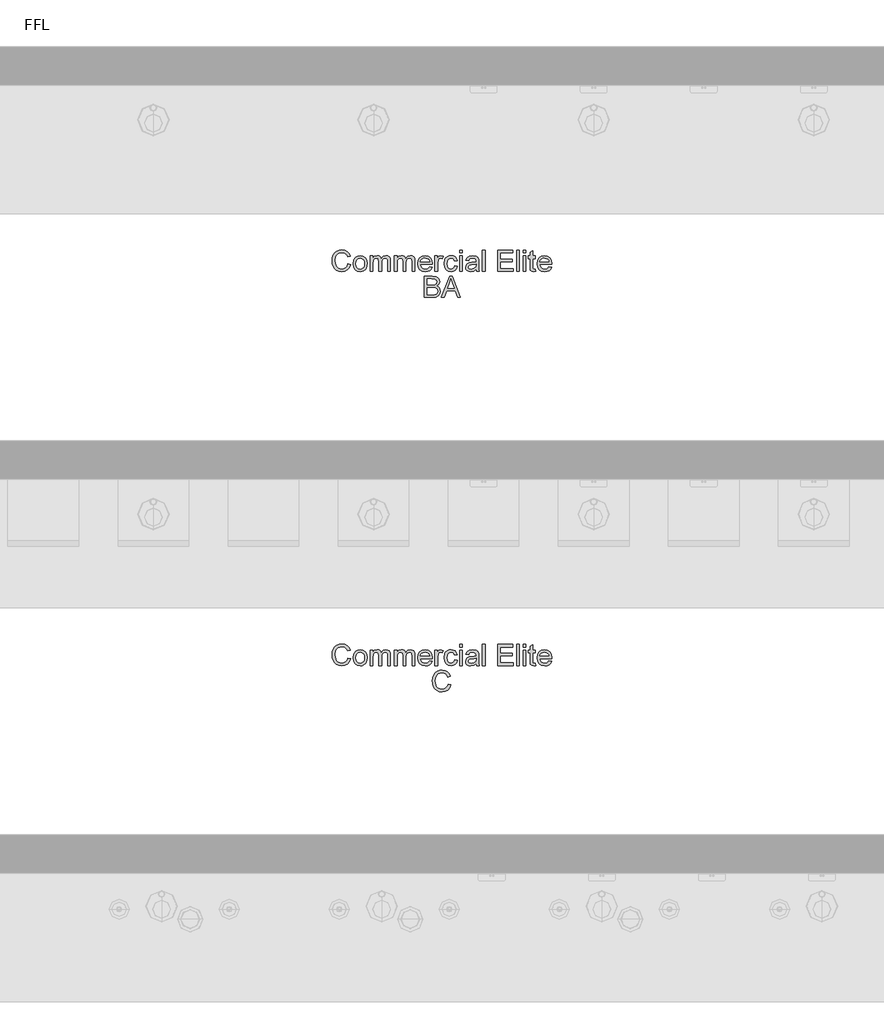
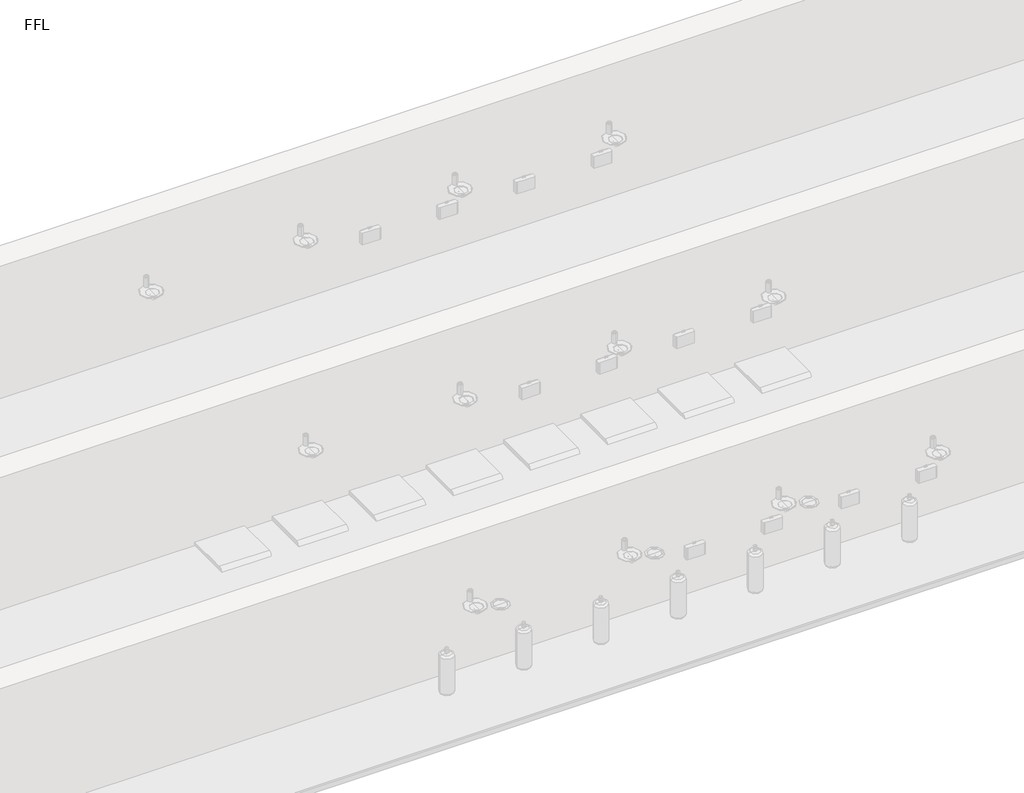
# One storey, part 11 of 13: 2 proxies.
"""IFC4 building model written with IfcOpenShell, lengths in millimetres."""

from ifc_helpers import new_model, si_unit, origin, origin_with_axes, place, context, project, spatial, polyline, outline, extrude, element, save

model = new_model("IFC4")

# Units and contexts
model_context = context("Model", 3, world=origin())
ifc_project = project(units=[si_unit("LENGTHUNIT", "METRE", prefix="MILLI")], contexts=[model_context])

# Site, building, storey
site = spatial("IfcSite", under=ifc_project)
building = spatial("IfcBuilding", under=site)
storey = spatial("IfcBuildingStorey", under=building, Name="FFL", Elevation=0.0)

# Proxies
placement = place(None, origin())
element("IfcBuildingElementProxy", 1, Name="150mm Arial", ObjectType="150mm Arial", at=placement, inside=storey, context=model_context, shape_type="SweptSolid", body=[
    extrude(outline(polyline([(6283.6300917, 6596.3018309), (6302.0916302, 6591.5422155), (6293.5730004, 6570.0292948), (6280.204611, 6554.3126482), (6262.6445148, 6544.698766), (6241.5507648, 6541.4941386), (6220.1370028, 6543.9190184), (6203.1312937, 6551.1936578), (6190.0964379, 6563.065653), (6180.595236, 6579.2826001), (6174.7944547, 6598.3481049), (6172.860861, 6618.7657732), (6175.0468586, 6640.3012299), (6181.6048514, 6658.8979847), (6192.1922913, 6673.9655929), (6206.4666302, 6684.9136097), (6223.3957167, 6691.5797756), (6241.9473994, 6693.8018309), (6262.1892865, 6690.9262299), (6278.9245629, 6682.299427), (6291.6303922, 6668.4532732), (6299.7839379, 6649.9196193), (6281.3223994, 6645.5205809), (6274.9221591, 6658.9836217), (6266.1781687, 6668.2188982), (6254.9822552, 6673.5599439), (6241.2262456, 6675.3402924), (6225.3698754, 6673.3661338), (6212.3440341, 6667.4436578), (6202.4597191, 6658.1948597), (6196.0279283, 6646.2417347), (6191.3223994, 6618.8018309), (6196.8933129, 6586.9989463), (6204.0147071, 6575.1224439), (6214.2370629, 6566.6804367), (6226.4921711, 6561.6368669), (6239.7118225, 6559.955677), (6255.1219788, 6562.2453405), (6267.9630244, 6569.1143309), (6277.6580365, 6580.4905328), (6283.6300917, 6596.3018309)])), origin_with_axes(), (0.0, 0.0, 1.0), 5.0),
    extrude(outline(polyline([(6320.5531687, 6598.0326001), (6324.5465581, 6624.1834415), (6336.5267264, 6642.5638501), (6351.3284091, 6651.5692588), (6369.0507648, 6654.5710617), (6388.4452961, 6650.9157131), (6403.9365821, 6639.9496674), (6414.0913297, 6622.5383092), (6417.4762456, 6599.5470232), (6415.9798514, 6580.8961818), (6411.4906687, 6566.6984655), (6404.1394066, 6556.0659535), (6394.0567744, 6548.1107251), (6382.0811134, 6543.1482852), (6369.0507648, 6541.4941386), (6349.4218586, 6545.1359655), (6333.9486014, 6556.0614463), (6323.9020268, 6573.8378886), (6320.5531687, 6598.0326001)]), holes=[polyline([(6339.0147071, 6598.0686578), (6341.1511254, 6581.3604246), (6347.5603802, 6569.456879), (6357.2058129, 6562.3309775), (6369.0507648, 6559.955677), (6380.8416302, 6562.3444992), (6390.4690341, 6569.5109655), (6396.8782889, 6581.5722636), (6399.0147071, 6598.6455809), (6396.8647672, 6614.8670352), (6390.4149475, 6626.6083213), (6380.774022, 6633.7342227), (6369.0507648, 6636.1095232), (6357.2058129, 6633.7432371), (6347.5603802, 6626.644379), (6341.1511254, 6614.7678766), (6339.0147071, 6598.0686578)])]), origin_with_axes(), (0.0, 0.0, 1.0), 5.0),
    extrude(outline(polyline([(6438.2454764, 6543.8018309), (6438.2454764, 6652.2633693), (6456.7070148, 6652.2633693), (6456.7070148, 6634.4148117), (6469.3993225, 6649.0362059), (6487.4642264, 6654.5710617), (6497.7316542, 6653.1603044), (6505.9618225, 6648.9280328), (6516.1300917, 6633.1167347), (6530.5351398, 6649.2074799), (6548.7262456, 6654.5710617), (6562.6039499, 6652.3399919), (6572.8668706, 6645.6467828), (6579.2085172, 6634.3111458), (6581.3223994, 6618.1527924), (6581.3223994, 6543.8018309), (6562.860861, 6543.8018309), (6562.860861, 6610.2201001), (6561.1481206, 6625.6347636), (6554.9461975, 6633.2249078), (6544.3993225, 6636.1095232), (6534.3978201, 6634.2615665), (6526.2442744, 6628.7176963), (6520.822099, 6619.0993068), (6519.0147071, 6605.0277924), (6519.0147071, 6543.8018309), (6500.5531687, 6543.8018309), (6500.5531687, 6612.2753886), (6496.2803321, 6630.160004), (6490.6418105, 6634.6221434), (6482.2719187, 6636.1095232), (6468.6060533, 6632.143177), (6459.5195148, 6620.5326001), (6456.7070148, 6598.5013501), (6456.7070148, 6543.8018309), (6438.2454764, 6543.8018309)])), origin_with_axes(), (0.0, 0.0, 1.0), 5.0),
    extrude(outline(polyline([(6609.0147071, 6543.8018309), (6609.0147071, 6652.2633693), (6627.4762456, 6652.2633693), (6627.4762456, 6634.4148117), (6640.1685533, 6649.0362059), (6658.2334571, 6654.5710617), (6668.500885, 6653.1603044), (6676.7310533, 6648.9280328), (6686.8993225, 6633.1167347), (6701.3043706, 6649.2074799), (6719.4954764, 6654.5710617), (6733.3731807, 6652.3399919), (6743.6361014, 6645.6467828), (6749.977748, 6634.3111458), (6752.0916302, 6618.1527924), (6752.0916302, 6543.8018309), (6733.6300917, 6543.8018309), (6733.6300917, 6610.2201001), (6731.9173514, 6625.6347636), (6725.7154283, 6633.2249078), (6715.1685533, 6636.1095232), (6705.1670509, 6634.2615665), (6697.0135052, 6628.7176963), (6691.5913297, 6619.0993068), (6689.7839379, 6605.0277924), (6689.7839379, 6543.8018309), (6671.3223994, 6543.8018309), (6671.3223994, 6612.2753886), (6667.0495629, 6630.160004), (6661.4110413, 6634.6221434), (6653.0411494, 6636.1095232), (6639.3752841, 6632.143177), (6630.2887456, 6620.5326001), (6627.4762456, 6598.5013501), (6627.4762456, 6543.8018309), (6609.0147071, 6543.8018309)])), origin_with_axes(), (0.0, 0.0, 1.0), 5.0),
    extrude(outline(polyline([(6855.7214379, 6576.1095232), (6873.8223994, 6573.8018309), (6867.3004643, 6560.1630088), (6856.8933129, 6549.9676963), (6842.8353201, 6543.612528), (6825.360861, 6541.4941386), (6803.6992023, 6545.1494871), (6787.0315341, 6556.1155328), (6776.4035292, 6573.6801362), (6772.860861, 6597.1311578), (6776.4395869, 6621.3709415), (6787.1757648, 6639.4989463), (6803.6180725, 6650.8030328), (6824.3151879, 6654.5710617), (6844.367772, 6650.8120472), (6860.3909091, 6639.535004), (6870.8972191, 6621.4430568), (6874.3993225, 6597.2393309), (6874.2911494, 6592.2633693), (6791.3223994, 6592.2633693), (6794.5180124, 6578.4442588), (6801.9413898, 6568.285004), (6812.6550316, 6562.0380088), (6825.7214379, 6559.955677), (6843.8223994, 6563.8138501), (6855.7214379, 6576.1095232)]), holes=[polyline([(6791.3223994, 6610.7249078), (6855.9377841, 6610.7249078), (6853.4407889, 6620.4785136), (6848.5459571, 6627.455677), (6837.782736, 6633.9460617), (6824.2430725, 6636.1095232), (6811.7986615, 6634.3832612), (6801.5086975, 6629.2044751), (6794.3557528, 6621.1320592), (6791.3223994, 6610.7249078)])]), origin_with_axes(), (0.0, 0.0, 1.0), 5.0),
    extrude(outline(polyline([(6892.860861, 6543.8018309), (6892.860861, 6652.2633693), (6909.0147071, 6652.2633693), (6909.0147071, 6636.2176963), (6920.4810533, 6651.0013501), (6932.0195148, 6654.5710617), (6950.5531687, 6648.8739463), (6944.3873033, 6632.3234655), (6931.4065341, 6636.1095232), (6920.9678321, 6632.4676963), (6914.3151879, 6622.3715424), (6911.3223994, 6600.8090424), (6911.3223994, 6543.8018309), (6892.860861, 6543.8018309)])), origin_with_axes(), (0.0, 0.0, 1.0), 5.0),
    extrude(outline(polyline([(7031.3223994, 6583.0326001), (7049.7839379, 6580.7249078), (7044.6367023, 6564.3051362), (7034.9642264, 6551.8967828), (7021.6769667, 6544.0947996), (7005.6853802, 6541.4941386), (6986.0474595, 6545.1224439), (6970.6913898, 6556.0073597), (6960.7800316, 6573.6711217), (6957.4762456, 6597.6359655), (6963.1192744, 6628.3030328), (6970.2406687, 6639.8009294), (6980.3187937, 6648.0085617), (6992.3755845, 6652.9304367), (7005.4329764, 6654.5710617), (7021.0324355, 6652.3174559), (7033.5038898, 6645.5566386), (7042.4507047, 6634.6491867), (7047.4762456, 6619.955677), (7029.0147071, 6617.6479847), (7020.4510052, 6631.4761097), (7005.5772071, 6636.1095232), (6993.6466182, 6633.8288742), (6984.1769667, 6626.986927), (6977.9975797, 6615.2140905), (6975.9377841, 6598.1407732), (6977.9525076, 6580.8375881), (6983.9966783, 6569.0241867), (6993.2950557, 6562.2228044), (7005.0723994, 6559.955677), (7014.6321951, 6561.3709415), (7022.470236, 6565.6167347), (7028.1718586, 6572.8012299), (7031.3223994, 6583.0326001)])), origin_with_axes(), (0.0, 0.0, 1.0), 5.0),
    extrude(outline(polyline([(7065.9377841, 6673.0326001), (7065.9377841, 6691.4941386), (7084.3993225, 6691.4941386), (7084.3993225, 6673.0326001), (7065.9377841, 6673.0326001)])), origin_with_axes(), (0.0, 0.0, 1.0), 5.0),
    extrude(outline(polyline([(7065.9377841, 6543.8018309), (7065.9377841, 6652.2633693), (7084.3993225, 6652.2633693), (7084.3993225, 6543.8018309), (7065.9377841, 6543.8018309)])), origin_with_axes(), (0.0, 0.0, 1.0), 5.0),
    extrude(outline(polyline([(7181.3223994, 6557.6479847), (7163.4197552, 6545.1359655), (7143.642111, 6541.4941386), (7128.2139259, 6543.6846434), (7116.8332167, 6550.2561578), (7109.8154884, 6560.2351242), (7107.4762456, 6572.6479847), (7111.0098994, 6587.2513501), (7120.2947552, 6597.8523117), (7133.2214379, 6603.910004), (7149.1949956, 6606.6864463), (7181.2142264, 6613.0326001), (7181.3223994, 6617.143177), (7180.0513658, 6625.3823597), (7176.2382648, 6630.7729847), (7167.7106206, 6634.7753886), (7155.829611, 6636.1095232), (7137.1517264, 6632.5578405), (7128.2454764, 6619.955677), (7109.7839379, 6622.2633693), (7117.7707167, 6640.2922155), (7133.8524475, 6650.8571193), (7158.2094187, 6654.5710617), (7180.5832167, 6651.2898117), (7193.2214379, 6643.050629), (7198.8824956, 6630.5205809), (7199.7839379, 6614.3667347), (7199.7839379, 6591.3979847), (7200.7214379, 6559.3246674), (7204.3993225, 6543.8018309), (7185.9377841, 6543.8018309), (7181.3223994, 6557.6479847)]), holes=[polyline([(7181.3223994, 6594.5710617), (7151.5387456, 6588.910004), (7135.6553321, 6585.9172155), (7128.4618225, 6581.049427), (7125.9377841, 6573.9460617), (7131.4365821, 6563.9580809), (7147.5723994, 6559.955677), (7166.2502841, 6564.3727443), (7178.2935533, 6575.0638501), (7181.2142264, 6589.3426963), (7181.3223994, 6594.5710617)])]), origin_with_axes(), (0.0, 0.0, 1.0), 5.0),
    extrude(outline(polyline([(7225.1685533, 6543.8018309), (7225.1685533, 6691.4941386), (7243.6300917, 6691.4941386), (7243.6300917, 6543.8018309), (7225.1685533, 6543.8018309)])), origin_with_axes(), (0.0, 0.0, 1.0), 5.0),
    extrude(outline(polyline([(7331.3223994, 6543.8018309), (7331.3223994, 6691.4941386), (7437.4762456, 6691.4941386), (7437.4762456, 6673.0326001), (7349.7839379, 6673.0326001), (7349.7839379, 6629.1864463), (7432.860861, 6629.1864463), (7432.860861, 6610.7249078), (7349.7839379, 6610.7249078), (7349.7839379, 6562.2633693), (7439.7839379, 6562.2633693), (7439.7839379, 6543.8018309), (7331.3223994, 6543.8018309)])), origin_with_axes(), (0.0, 0.0, 1.0), 5.0),
    extrude(outline(polyline([(7465.1685533, 6543.8018309), (7465.1685533, 6691.4941386), (7483.6300917, 6691.4941386), (7483.6300917, 6543.8018309), (7465.1685533, 6543.8018309)])), origin_with_axes(), (0.0, 0.0, 1.0), 5.0),
    extrude(outline(polyline([(7511.3223994, 6543.8018309), (7511.3223994, 6652.2633693), (7529.7839379, 6652.2633693), (7529.7839379, 6543.8018309), (7511.3223994, 6543.8018309)])), origin_with_axes(), (0.0, 0.0, 1.0), 5.0),
    extrude(outline(polyline([(7511.3223994, 6673.0326001), (7511.3223994, 6691.4941386), (7529.7839379, 6691.4941386), (7529.7839379, 6673.0326001), (7511.3223994, 6673.0326001)])), origin_with_axes(), (0.0, 0.0, 1.0), 5.0),
    extrude(outline(polyline([(7596.7070148, 6559.1984655), (7599.0147071, 6543.2609655), (7585.204611, 6541.4941386), (7569.735861, 6544.5590424), (7562.0195148, 6552.5999078), (7559.7839379, 6573.549427), (7559.7839379, 6633.8018309), (7545.9377841, 6633.8018309), (7545.9377841, 6652.2633693), (7559.7839379, 6652.2633693), (7559.7839379, 6678.6215424), (7578.2454764, 6689.4749078), (7578.2454764, 6652.2633693), (7596.7070148, 6652.2633693), (7596.7070148, 6633.8018309), (7578.2454764, 6633.8018309), (7578.2454764, 6574.0902924), (7579.2190341, 6564.5710617), (7582.3740821, 6561.1996674), (7588.6661494, 6559.955677), (7596.7070148, 6559.1984655)])), origin_with_axes(), (0.0, 0.0, 1.0), 5.0),
    extrude(outline(polyline([(7691.1060533, 6576.1095232), (7709.2070148, 6573.8018309), (7702.6850797, 6560.1630088), (7692.2779283, 6549.9676963), (7678.2199355, 6543.612528), (7660.7454764, 6541.4941386), (7639.0838177, 6545.1494871), (7622.4161494, 6556.1155328), (7611.7881446, 6573.6801362), (7608.2454764, 6597.1311578), (7611.8242023, 6621.3709415), (7622.5603802, 6639.4989463), (7639.0026879, 6650.8030328), (7659.6998033, 6654.5710617), (7679.7523874, 6650.8120472), (7695.7755244, 6639.535004), (7706.2818345, 6621.4430568), (7709.7839379, 6597.2393309), (7709.6757648, 6592.2633693), (7626.7070148, 6592.2633693), (7629.9026278, 6578.4442588), (7637.3260052, 6568.285004), (7648.039647, 6562.0380088), (7661.1060533, 6559.955677), (7679.2070148, 6563.8138501), (7691.1060533, 6576.1095232)]), holes=[polyline([(7626.7070148, 6610.7249078), (7691.3223994, 6610.7249078), (7688.8254042, 6620.4785136), (7683.9305725, 6627.455677), (7673.1673514, 6633.9460617), (7659.6276879, 6636.1095232), (7647.1832768, 6634.3832612), (7636.8933129, 6629.2044751), (7629.7403682, 6621.1320592), (7626.7070148, 6610.7249078)])]), origin_with_axes(), (0.0, 0.0, 1.0), 5.0),
    extrude(outline(polyline([(6819.0147071, 6361.4941386), (6819.0147071, 6509.1864463), (6875.3728802, 6509.1864463), (6902.9750437, 6504.8414943), (6912.250885, 6499.3291746), (6919.2731206, 6491.4821193), (6925.1685533, 6472.5878886), (6920.2106206, 6455.3342828), (6905.2286494, 6442.2633693), (6915.6898874, 6436.800629), (6923.4197552, 6428.4893309), (6928.1928922, 6417.8793549), (6929.7839379, 6405.5205809), (6925.438986, 6385.6708213), (6914.6757648, 6371.5362059), (6898.6120629, 6364.0362059), (6874.9401879, 6361.4941386), (6819.0147071, 6361.4941386)]), holes=[polyline([(6837.4762456, 6379.955677), (6875.3368225, 6379.955677), (6889.0387456, 6380.6768309), (6900.6312937, 6384.6972636), (6908.3115821, 6392.9003886), (6911.3223994, 6405.3402924), (6907.7887456, 6419.691254), (6896.3404283, 6428.2549559), (6873.5339379, 6430.7249078), (6837.4762456, 6430.7249078), (6837.4762456, 6379.955677)]), polyline([(6837.4762456, 6449.1864463), (6871.1901879, 6449.1864463), (6890.8776879, 6450.7729847), (6902.7226398, 6457.6059174), (6906.7070148, 6469.6311578), (6902.9930725, 6481.674427), (6892.3560533, 6488.7958213), (6868.6300917, 6490.7249078), (6837.4762456, 6490.7249078), (6837.4762456, 6449.1864463)])]), origin_with_axes(), (0.0, 0.0, 1.0), 5.0),
    extrude(outline(polyline([(6937.9690341, 6361.4941386), (6996.923361, 6509.1864463), (7012.6445148, 6509.1864463), (7071.5988417, 6361.4941386), (7052.0916302, 6361.4941386), (7035.1805725, 6407.6479847), (6974.3512456, 6407.6479847), (6957.4762456, 6361.4941386), (6937.9690341, 6361.4941386)]), holes=[polyline([(6981.1300917, 6426.1095232), (7028.4377841, 6426.1095232), (7015.1324956, 6462.4196193), (7004.7839379, 6490.7249078), (6995.5892264, 6465.5926963), (6981.1300917, 6426.1095232)])]), origin_with_axes(), (0.0, 0.0, 1.0), 5.0),
])
element("IfcBuildingElementProxy", 2, Name="150mm Arial", ObjectType="150mm Arial", at=placement, inside=storey, context=model_context, shape_type="SweptSolid", body=[
    extrude(outline(polyline([(6283.6300917, 3836.3018309), (6302.0916302, 3831.5422155), (6293.5730004, 3810.0292948), (6280.204611, 3794.3126482), (6262.6445148, 3784.698766), (6241.5507648, 3781.4941386), (6220.1370028, 3783.9190184), (6203.1312937, 3791.1936578), (6190.0964379, 3803.065653), (6180.595236, 3819.2826001), (6174.7944547, 3838.3481049), (6172.860861, 3858.7657732), (6175.0468586, 3880.3012299), (6181.6048514, 3898.8979847), (6192.1922913, 3913.9655929), (6206.4666302, 3924.9136097), (6223.3957167, 3931.5797756), (6241.9473994, 3933.8018309), (6262.1892865, 3930.9262299), (6278.9245629, 3922.299427), (6291.6303922, 3908.4532732), (6299.7839379, 3889.9196193), (6281.3223994, 3885.5205809), (6274.9221591, 3898.9836217), (6266.1781687, 3908.2188982), (6254.9822552, 3913.5599439), (6241.2262456, 3915.3402924), (6225.3698754, 3913.3661338), (6212.3440341, 3907.4436578), (6202.4597191, 3898.1948597), (6196.0279283, 3886.2417347), (6191.3223994, 3858.8018309), (6196.8933129, 3826.9989463), (6204.0147071, 3815.1224439), (6214.2370629, 3806.6804367), (6226.4921711, 3801.6368669), (6239.7118225, 3799.955677), (6255.1219788, 3802.2453405), (6267.9630244, 3809.1143309), (6277.6580365, 3820.4905328), (6283.6300917, 3836.3018309)])), origin_with_axes(), (0.0, 0.0, 1.0), 5.0),
    extrude(outline(polyline([(6320.5531687, 3838.0326001), (6324.5465581, 3864.1834415), (6336.5267264, 3882.5638501), (6351.3284091, 3891.5692588), (6369.0507648, 3894.5710617), (6388.4452961, 3890.9157131), (6403.9365821, 3879.9496674), (6414.0913297, 3862.5383092), (6417.4762456, 3839.5470232), (6415.9798514, 3820.8961818), (6411.4906687, 3806.6984655), (6404.1394066, 3796.0659535), (6394.0567744, 3788.1107251), (6382.0811134, 3783.1482852), (6369.0507648, 3781.4941386), (6349.4218586, 3785.1359655), (6333.9486014, 3796.0614463), (6323.9020268, 3813.8378886), (6320.5531687, 3838.0326001)]), holes=[polyline([(6339.0147071, 3838.0686578), (6341.1511254, 3821.3604246), (6347.5603802, 3809.456879), (6357.2058129, 3802.3309775), (6369.0507648, 3799.955677), (6380.8416302, 3802.3444992), (6390.4690341, 3809.5109655), (6396.8782889, 3821.5722636), (6399.0147071, 3838.6455809), (6396.8647672, 3854.8670352), (6390.4149475, 3866.6083213), (6380.774022, 3873.7342227), (6369.0507648, 3876.1095232), (6357.2058129, 3873.7432371), (6347.5603802, 3866.644379), (6341.1511254, 3854.7678766), (6339.0147071, 3838.0686578)])]), origin_with_axes(), (0.0, 0.0, 1.0), 5.0),
    extrude(outline(polyline([(6438.2454764, 3783.8018309), (6438.2454764, 3892.2633693), (6456.7070148, 3892.2633693), (6456.7070148, 3874.4148117), (6469.3993225, 3889.0362059), (6487.4642264, 3894.5710617), (6497.7316542, 3893.1603044), (6505.9618225, 3888.9280328), (6516.1300917, 3873.1167347), (6530.5351398, 3889.2074799), (6548.7262456, 3894.5710617), (6562.6039499, 3892.3399919), (6572.8668706, 3885.6467828), (6579.2085172, 3874.3111458), (6581.3223994, 3858.1527924), (6581.3223994, 3783.8018309), (6562.860861, 3783.8018309), (6562.860861, 3850.2201001), (6561.1481206, 3865.6347636), (6554.9461975, 3873.2249078), (6544.3993225, 3876.1095232), (6534.3978201, 3874.2615665), (6526.2442744, 3868.7176963), (6520.822099, 3859.0993068), (6519.0147071, 3845.0277924), (6519.0147071, 3783.8018309), (6500.5531687, 3783.8018309), (6500.5531687, 3852.2753886), (6496.2803321, 3870.160004), (6490.6418105, 3874.6221434), (6482.2719187, 3876.1095232), (6468.6060533, 3872.143177), (6459.5195148, 3860.5326001), (6456.7070148, 3838.5013501), (6456.7070148, 3783.8018309), (6438.2454764, 3783.8018309)])), origin_with_axes(), (0.0, 0.0, 1.0), 5.0),
    extrude(outline(polyline([(6609.0147071, 3783.8018309), (6609.0147071, 3892.2633693), (6627.4762456, 3892.2633693), (6627.4762456, 3874.4148117), (6640.1685533, 3889.0362059), (6658.2334571, 3894.5710617), (6668.500885, 3893.1603044), (6676.7310533, 3888.9280328), (6686.8993225, 3873.1167347), (6701.3043706, 3889.2074799), (6719.4954764, 3894.5710617), (6733.3731807, 3892.3399919), (6743.6361014, 3885.6467828), (6749.977748, 3874.3111458), (6752.0916302, 3858.1527924), (6752.0916302, 3783.8018309), (6733.6300917, 3783.8018309), (6733.6300917, 3850.2201001), (6731.9173514, 3865.6347636), (6725.7154283, 3873.2249078), (6715.1685533, 3876.1095232), (6705.1670509, 3874.2615665), (6697.0135052, 3868.7176963), (6691.5913297, 3859.0993068), (6689.7839379, 3845.0277924), (6689.7839379, 3783.8018309), (6671.3223994, 3783.8018309), (6671.3223994, 3852.2753886), (6667.0495629, 3870.160004), (6661.4110413, 3874.6221434), (6653.0411494, 3876.1095232), (6639.3752841, 3872.143177), (6630.2887456, 3860.5326001), (6627.4762456, 3838.5013501), (6627.4762456, 3783.8018309), (6609.0147071, 3783.8018309)])), origin_with_axes(), (0.0, 0.0, 1.0), 5.0),
    extrude(outline(polyline([(6855.7214379, 3816.1095232), (6873.8223994, 3813.8018309), (6867.3004643, 3800.1630088), (6856.8933129, 3789.9676963), (6842.8353201, 3783.612528), (6825.360861, 3781.4941386), (6803.6992023, 3785.1494871), (6787.0315341, 3796.1155328), (6776.4035292, 3813.6801362), (6772.860861, 3837.1311578), (6776.4395869, 3861.3709415), (6787.1757648, 3879.4989463), (6803.6180725, 3890.8030328), (6824.3151879, 3894.5710617), (6844.367772, 3890.8120472), (6860.3909091, 3879.535004), (6870.8972191, 3861.4430568), (6874.3993225, 3837.2393309), (6874.2911494, 3832.2633693), (6791.3223994, 3832.2633693), (6794.5180124, 3818.4442588), (6801.9413898, 3808.285004), (6812.6550316, 3802.0380088), (6825.7214379, 3799.955677), (6843.8223994, 3803.8138501), (6855.7214379, 3816.1095232)]), holes=[polyline([(6791.3223994, 3850.7249078), (6855.9377841, 3850.7249078), (6853.4407889, 3860.4785136), (6848.5459571, 3867.455677), (6837.782736, 3873.9460617), (6824.2430725, 3876.1095232), (6811.7986615, 3874.3832612), (6801.5086975, 3869.2044751), (6794.3557528, 3861.1320592), (6791.3223994, 3850.7249078)])]), origin_with_axes(), (0.0, 0.0, 1.0), 5.0),
    extrude(outline(polyline([(6892.860861, 3783.8018309), (6892.860861, 3892.2633693), (6909.0147071, 3892.2633693), (6909.0147071, 3876.2176963), (6920.4810533, 3891.0013501), (6932.0195148, 3894.5710617), (6950.5531687, 3888.8739463), (6944.3873033, 3872.3234655), (6931.4065341, 3876.1095232), (6920.9678321, 3872.4676963), (6914.3151879, 3862.3715424), (6911.3223994, 3840.8090424), (6911.3223994, 3783.8018309), (6892.860861, 3783.8018309)])), origin_with_axes(), (0.0, 0.0, 1.0), 5.0),
    extrude(outline(polyline([(7031.3223994, 3823.0326001), (7049.7839379, 3820.7249078), (7044.6367023, 3804.3051362), (7034.9642264, 3791.8967828), (7021.6769667, 3784.0947996), (7005.6853802, 3781.4941386), (6986.0474595, 3785.1224439), (6970.6913898, 3796.0073597), (6960.7800316, 3813.6711217), (6957.4762456, 3837.6359655), (6963.1192744, 3868.3030328), (6970.2406687, 3879.8009294), (6980.3187937, 3888.0085617), (6992.3755845, 3892.9304367), (7005.4329764, 3894.5710617), (7021.0324355, 3892.3174559), (7033.5038898, 3885.5566386), (7042.4507047, 3874.6491867), (7047.4762456, 3859.955677), (7029.0147071, 3857.6479847), (7020.4510052, 3871.4761097), (7005.5772071, 3876.1095232), (6993.6466182, 3873.8288742), (6984.1769667, 3866.986927), (6977.9975797, 3855.2140905), (6975.9377841, 3838.1407732), (6977.9525076, 3820.8375881), (6983.9966783, 3809.0241867), (6993.2950557, 3802.2228044), (7005.0723994, 3799.955677), (7014.6321951, 3801.3709415), (7022.470236, 3805.6167347), (7028.1718586, 3812.8012299), (7031.3223994, 3823.0326001)])), origin_with_axes(), (0.0, 0.0, 1.0), 5.0),
    extrude(outline(polyline([(7065.9377841, 3913.0326001), (7065.9377841, 3931.4941386), (7084.3993225, 3931.4941386), (7084.3993225, 3913.0326001), (7065.9377841, 3913.0326001)])), origin_with_axes(), (0.0, 0.0, 1.0), 5.0),
    extrude(outline(polyline([(7065.9377841, 3783.8018309), (7065.9377841, 3892.2633693), (7084.3993225, 3892.2633693), (7084.3993225, 3783.8018309), (7065.9377841, 3783.8018309)])), origin_with_axes(), (0.0, 0.0, 1.0), 5.0),
    extrude(outline(polyline([(7181.3223994, 3797.6479847), (7163.4197552, 3785.1359655), (7143.642111, 3781.4941386), (7128.2139259, 3783.6846434), (7116.8332167, 3790.2561578), (7109.8154884, 3800.2351242), (7107.4762456, 3812.6479847), (7111.0098994, 3827.2513501), (7120.2947552, 3837.8523117), (7133.2214379, 3843.910004), (7149.1949956, 3846.6864463), (7181.2142264, 3853.0326001), (7181.3223994, 3857.143177), (7180.0513658, 3865.3823597), (7176.2382648, 3870.7729847), (7167.7106206, 3874.7753886), (7155.829611, 3876.1095232), (7137.1517264, 3872.5578405), (7128.2454764, 3859.955677), (7109.7839379, 3862.2633693), (7117.7707167, 3880.2922155), (7133.8524475, 3890.8571193), (7158.2094187, 3894.5710617), (7180.5832167, 3891.2898117), (7193.2214379, 3883.050629), (7198.8824956, 3870.5205809), (7199.7839379, 3854.3667347), (7199.7839379, 3831.3979847), (7200.7214379, 3799.3246674), (7204.3993225, 3783.8018309), (7185.9377841, 3783.8018309), (7181.3223994, 3797.6479847)]), holes=[polyline([(7181.3223994, 3834.5710617), (7151.5387456, 3828.910004), (7135.6553321, 3825.9172155), (7128.4618225, 3821.049427), (7125.9377841, 3813.9460617), (7131.4365821, 3803.9580809), (7147.5723994, 3799.955677), (7166.2502841, 3804.3727443), (7178.2935533, 3815.0638501), (7181.2142264, 3829.3426963), (7181.3223994, 3834.5710617)])]), origin_with_axes(), (0.0, 0.0, 1.0), 5.0),
    extrude(outline(polyline([(7225.1685533, 3783.8018309), (7225.1685533, 3931.4941386), (7243.6300917, 3931.4941386), (7243.6300917, 3783.8018309), (7225.1685533, 3783.8018309)])), origin_with_axes(), (0.0, 0.0, 1.0), 5.0),
    extrude(outline(polyline([(7331.3223994, 3783.8018309), (7331.3223994, 3931.4941386), (7437.4762456, 3931.4941386), (7437.4762456, 3913.0326001), (7349.7839379, 3913.0326001), (7349.7839379, 3869.1864463), (7432.860861, 3869.1864463), (7432.860861, 3850.7249078), (7349.7839379, 3850.7249078), (7349.7839379, 3802.2633693), (7439.7839379, 3802.2633693), (7439.7839379, 3783.8018309), (7331.3223994, 3783.8018309)])), origin_with_axes(), (0.0, 0.0, 1.0), 5.0),
    extrude(outline(polyline([(7465.1685533, 3783.8018309), (7465.1685533, 3931.4941386), (7483.6300917, 3931.4941386), (7483.6300917, 3783.8018309), (7465.1685533, 3783.8018309)])), origin_with_axes(), (0.0, 0.0, 1.0), 5.0),
    extrude(outline(polyline([(7511.3223994, 3783.8018309), (7511.3223994, 3892.2633693), (7529.7839379, 3892.2633693), (7529.7839379, 3783.8018309), (7511.3223994, 3783.8018309)])), origin_with_axes(), (0.0, 0.0, 1.0), 5.0),
    extrude(outline(polyline([(7511.3223994, 3913.0326001), (7511.3223994, 3931.4941386), (7529.7839379, 3931.4941386), (7529.7839379, 3913.0326001), (7511.3223994, 3913.0326001)])), origin_with_axes(), (0.0, 0.0, 1.0), 5.0),
    extrude(outline(polyline([(7596.7070148, 3799.1984655), (7599.0147071, 3783.2609655), (7585.204611, 3781.4941386), (7569.735861, 3784.5590424), (7562.0195148, 3792.5999078), (7559.7839379, 3813.549427), (7559.7839379, 3873.8018309), (7545.9377841, 3873.8018309), (7545.9377841, 3892.2633693), (7559.7839379, 3892.2633693), (7559.7839379, 3918.6215424), (7578.2454764, 3929.4749078), (7578.2454764, 3892.2633693), (7596.7070148, 3892.2633693), (7596.7070148, 3873.8018309), (7578.2454764, 3873.8018309), (7578.2454764, 3814.0902924), (7579.2190341, 3804.5710617), (7582.3740821, 3801.1996674), (7588.6661494, 3799.955677), (7596.7070148, 3799.1984655)])), origin_with_axes(), (0.0, 0.0, 1.0), 5.0),
    extrude(outline(polyline([(7691.1060533, 3816.1095232), (7709.2070148, 3813.8018309), (7702.6850797, 3800.1630088), (7692.2779283, 3789.9676963), (7678.2199355, 3783.612528), (7660.7454764, 3781.4941386), (7639.0838177, 3785.1494871), (7622.4161494, 3796.1155328), (7611.7881446, 3813.6801362), (7608.2454764, 3837.1311578), (7611.8242023, 3861.3709415), (7622.5603802, 3879.4989463), (7639.0026879, 3890.8030328), (7659.6998033, 3894.5710617), (7679.7523874, 3890.8120472), (7695.7755244, 3879.535004), (7706.2818345, 3861.4430568), (7709.7839379, 3837.2393309), (7709.6757648, 3832.2633693), (7626.7070148, 3832.2633693), (7629.9026278, 3818.4442588), (7637.3260052, 3808.285004), (7648.039647, 3802.0380088), (7661.1060533, 3799.955677), (7679.2070148, 3803.8138501), (7691.1060533, 3816.1095232)]), holes=[polyline([(7626.7070148, 3850.7249078), (7691.3223994, 3850.7249078), (7688.8254042, 3860.4785136), (7683.9305725, 3867.455677), (7673.1673514, 3873.9460617), (7659.6276879, 3876.1095232), (7647.1832768, 3874.3832612), (7636.8933129, 3869.2044751), (7629.7403682, 3861.1320592), (7626.7070148, 3850.7249078)])]), origin_with_axes(), (0.0, 0.0, 1.0), 5.0),
    extrude(outline(polyline([(6985.1685533, 3653.9941386), (7003.6300917, 3649.2345232), (6995.1114619, 3627.7216025), (6981.7430725, 3612.0049559), (6964.1829764, 3602.3910737), (6943.0892264, 3599.1864463), (6921.6754643, 3601.6113261), (6904.6697552, 3608.8859655), (6891.6348994, 3620.7579607), (6882.1336975, 3636.9749078), (6876.3329163, 3656.0404126), (6874.3993225, 3676.4580809), (6876.5853201, 3697.9935376), (6883.1433129, 3716.5902924), (6893.7307528, 3731.6579006), (6908.0050917, 3742.6059174), (6924.9341783, 3749.2720833), (6943.485861, 3751.4941386), (6963.727748, 3748.6185376), (6980.4630244, 3739.9917347), (6993.1688538, 3726.1455809), (7001.3223994, 3707.611927), (6982.860861, 3703.2128886), (6976.4606206, 3716.6759294), (6967.7166302, 3725.9112059), (6956.5207167, 3731.2522516), (6942.7647071, 3733.0326001), (6926.9083369, 3731.0584415), (6913.8824956, 3725.1359655), (6903.9981807, 3715.8871674), (6897.5663898, 3703.9340424), (6892.860861, 3676.4941386), (6898.4317744, 3644.691254), (6905.5531687, 3632.8147516), (6915.7755244, 3624.3727443), (6928.0306326, 3619.3291746), (6941.2502841, 3617.6479847), (6956.6604403, 3619.9376482), (6969.501486, 3626.8066386), (6979.196498, 3638.1828405), (6985.1685533, 3653.9941386)])), origin_with_axes(), (0.0, 0.0, 1.0), 5.0),
])

save(model, "model.ifc")
